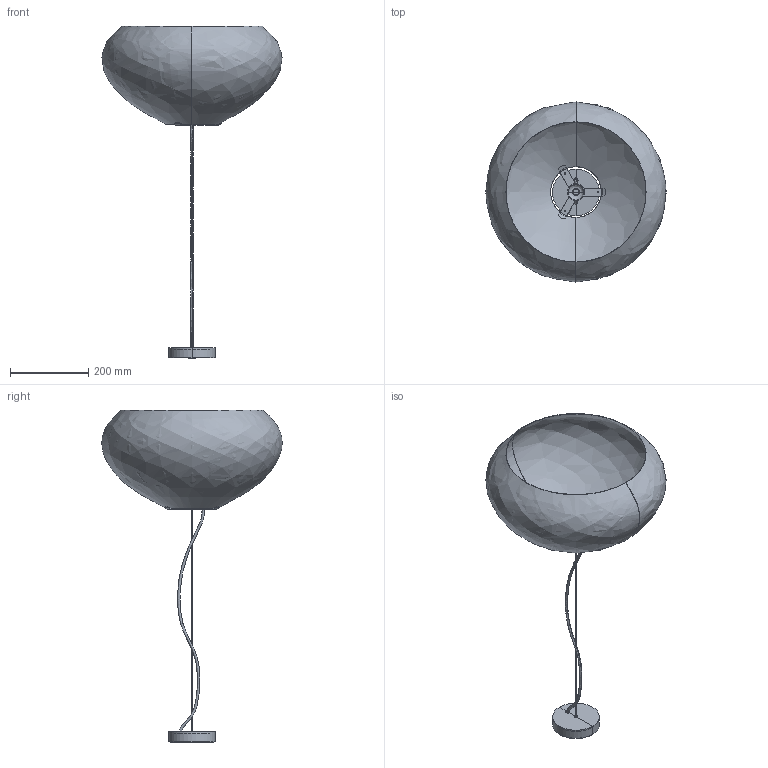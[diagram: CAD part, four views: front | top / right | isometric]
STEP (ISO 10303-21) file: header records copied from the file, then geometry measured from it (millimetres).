
FILE_DESCRIPTION(/* description */ (''),/* implementation_level */ '2;1');
FILE_NAME(/* name */ '20403.step',/* time_stamp */ '2024-03-28T11:12:52+01:00',/* author */ ('RenataManzini'),/* organization */ (''),/* preprocessor_version */ 'ST-DEVELOPER v20',/* originating_system */ 'AutoCAD Mechanical',/* authorisation */ '');
FILE_SCHEMA (('AUTOMOTIVE_DESIGN { 1 0 10303 214 3 1 1 }'));
Length unit declared in the file: millimetre
Products named in the file (4): Product; Pieza_20403_SL02 - Lamp Holder-696825-_3D_; Pieza_20403_SC - Lamp Holder-701445-_3D_; Pieza_20403_SL01 - Lamp Holder-702109-_3D_
Assembly tree (3 placements, depth 2):
  Product
    Pieza_20403_SL02 - Lamp Holder-696825-_3D_
    Pieza_20403_SC - Lamp Holder-701445-_3D_
    Pieza_20403_SL01 - Lamp Holder-702109-_3D_
Bounding box: 461.77 x 462 x 850.45 mm (x, y, z)
Volume: 501382.7 mm3; surface area: 874625.8 mm2
Topology: 7 solids, 7 shells, 128 faces, 294 edges, 180 vertices
Faces by surface type: plane 61, cylinder 47, bspline 10, cone 10
Entity records: 13749 total; most frequent: CARTESIAN_POINT 10752, DIRECTION 614, ORIENTED_EDGE 586, EDGE_CURVE 293, AXIS2_PLACEMENT_3D 225, VERTEX_POINT 178, LINE 164, VECTOR 164
